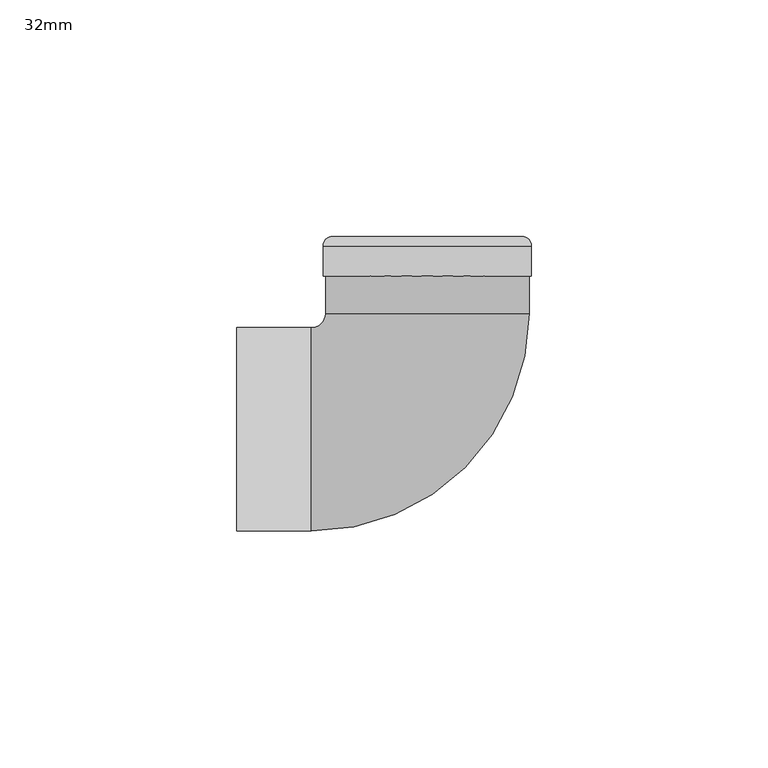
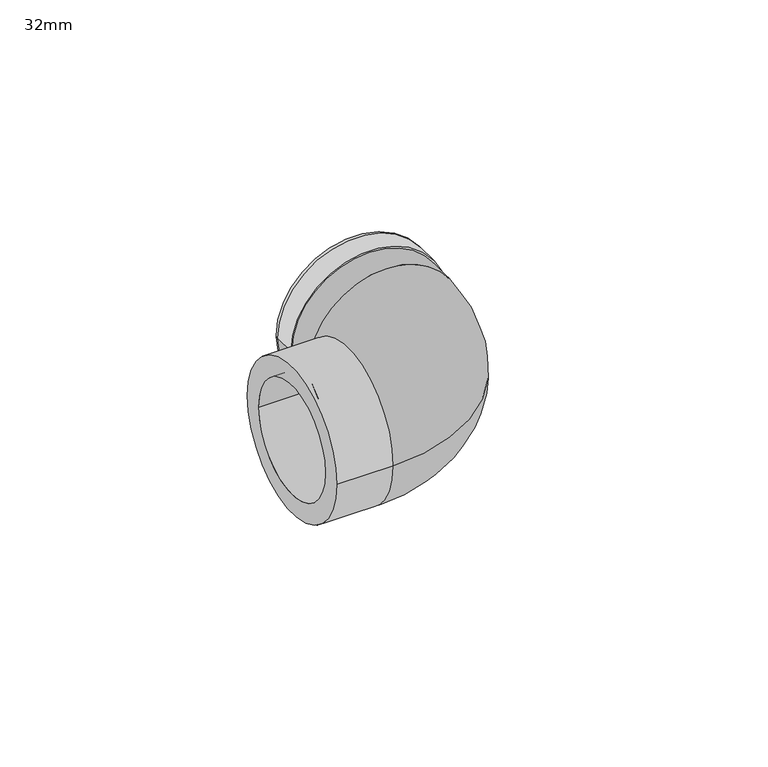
"""IFC4 building model written with IfcOpenShell, lengths in millimetres: pipe fitting geometry, Durapipe_PipeFitting_PVC_PlainThreadedElbows90Deg : 32mm."""

from ifc_helpers import new_model, si_unit, point, frame, origin, place, context, project, spatial, polyline, circle_curve, ellipse_curve, trimmed, source, transform, mapped, element, save
from ifc_brep_helpers import plane_surface, cylinder_surface, revolved_surface, advanced_brep


def pipe_fitting_32mm_0fd3095c(model_context):
    return source(origin(), model_context, "Body", "AdvancedBrep", [
        advanced_brep(
        [(-21.5, 32.4, 0.0), (21.5, 32.4, 0.0), (16.0, 32.4, 0.0), (-16.0, 32.4, 0.0), (-40.3, 21.5, 0.0), (-40.3, -21.5, 0.0), (-40.3, 16.0, 0.0), (-40.3, -16.0, 0.0), (-21.5, 24.5, 0.0), (21.5, 24.5, 0.0), (-24.5, 21.5, 0.0), (-24.5, -21.5, 0.0), (-18.1, -16.0, 0.0), (-18.1, 16.0, 0.0), (-16.0, 18.1, 0.0), (16.0, 18.1, 0.0)],
        [
            (0, 1, circle_curve(frame((0.0, 32.4, 0.0), z_axis=(0.0, 1.0, 0.0), x_axis=(1.0, 0.0, 0.0)), 21.5)),
            (1, 0, circle_curve(frame((0.0, 32.4, 0.0), z_axis=(0.0, 1.0, 0.0), x_axis=(1.0, 0.0, 0.0)), 21.5)),
            (2, 3, circle_curve(frame((0.0, 32.4, 0.0), z_axis=(0.0, -1.0, 0.0), x_axis=(1.0, 0.0, 0.0)), 16.0)),
            (3, 2, circle_curve(frame((0.0, 32.4, 0.0), z_axis=(0.0, -1.0, 0.0), x_axis=(1.0, 0.0, 0.0)), 16.0)),
            (4, 5, circle_curve(frame((-40.3, 0.0, 0.0), z_axis=(-1.0, 0.0, 0.0), x_axis=(0.0, -1.0, 0.0)), 21.5)),
            (5, 4, circle_curve(frame((-40.3, 0.0, 0.0), z_axis=(-1.0, 0.0, 0.0), x_axis=(0.0, -1.0, 0.0)), 21.5)),
            (6, 7, circle_curve(frame((-40.3, 0.0, 0.0), z_axis=(1.0, 0.0, 0.0), x_axis=(0.0, 1.0, 0.0)), 16.0)),
            (7, 6, circle_curve(frame((-40.3, 0.0, 0.0), z_axis=(1.0, 0.0, 0.0), x_axis=(0.0, 1.0, 0.0)), 16.0)),
            (0, 8),
            (8, 9, circle_curve(frame((0.0, 24.5, 0.0), z_axis=(0.0, 1.0, 0.0), x_axis=(1.0, 0.0, 0.0)), 21.5)),
            (9, 1),
            (9, 8, circle_curve(frame((0.0, 24.5, 0.0), z_axis=(0.0, 1.0, 0.0), x_axis=(1.0, 0.0, 0.0)), 21.5)),
            (8, 10, circle_curve(frame((-24.5, 24.5, 0.0), z_axis=(0.0, 0.0, -1.0), x_axis=(1.0, 0.0, 0.0)), 3.0)),
            (10, 11, circle_curve(frame((-24.5, 0.0, 0.0), z_axis=(1.0, 0.0, 0.0), x_axis=(0.0, -1.0, 0.0)), 21.5)),
            (11, 9, circle_curve(frame((-24.5, 24.5, 0.0), z_axis=(0.0, 0.0, 1.0), x_axis=(1.0, 0.0, 0.0)), 46.0)),
            (11, 10, circle_curve(frame((-24.5, 0.0, 0.0), z_axis=(1.0, 0.0, 0.0), x_axis=(0.0, -1.0, 0.0)), 21.5)),
            (5, 11),
            (10, 4),
            (12, 13, circle_curve(frame((-18.1, 0.0, 0.0), z_axis=(-1.0, 0.0, 0.0), x_axis=(0.0, 1.0, 0.0)), 16.0)),
            (13, 12, circle_curve(frame((-18.1, 0.0, 0.0), z_axis=(-1.0, 0.0, 0.0), x_axis=(0.0, 1.0, 0.0)), 16.0)),
            (12, 7),
            (6, 13),
            (14, 15, circle_curve(frame((0.0, 18.1, 0.0), z_axis=(0.0, 1.0, 0.0), x_axis=(1.0, 0.0, 0.0)), 16.0)),
            (15, 14, circle_curve(frame((0.0, 18.1, 0.0), z_axis=(0.0, 1.0, 0.0), x_axis=(1.0, 0.0, 0.0)), 16.0)),
            (14, 3),
            (2, 15),
        ],
        [
            plane_surface(frame((0.0, 32.4, 0.0), z_axis=(0.0, 1.0, 0.0), x_axis=(0.0, 0.0, 1.0))),
            plane_surface(frame((-40.3, 0.0, 0.0), z_axis=(-1.0, 0.0, 0.0), x_axis=(0.0, 0.0, 1.0))),
            cylinder_surface(frame((0.0, 32.4, 0.0), z_axis=(0.0, 1.0, 0.0), x_axis=(1.0, 0.0, 0.0)), 21.5),
            revolved_surface(trimmed(ellipse_curve(frame((0.0, 24.5, 0.0), z_axis=(0.0, 1.0, 0.0), x_axis=(1.0, 0.0, 0.0)), 21.5, 21.5), [point((-21.5, 24.5, 0.0))], [point((21.5, 24.5, 0.0))], True, "CARTESIAN"), (-24.5, 24.5, 0.0), (0.0, 0.0, -1.0)),
            revolved_surface(trimmed(ellipse_curve(frame((0.0, 24.5, 0.0), z_axis=(0.0, 1.0, 0.0), x_axis=(1.0, 0.0, 0.0)), 21.5, 21.5), [point((21.5, 24.5, 0.0))], [point((-21.5, 24.5, 0.0))], True, "CARTESIAN"), (-24.5, 24.5, 0.0), (0.0, 0.0, -1.0)),
            cylinder_surface(frame((-24.5, 0.0, 0.0), z_axis=(1.0, 0.0, 0.0), x_axis=(0.0, -1.0, 0.0)), 21.5),
            plane_surface(frame((-18.1, 0.0, 0.0), z_axis=(-1.0, 0.0, 0.0), x_axis=(0.0, 0.0, 1.0))),
            revolved_surface(polyline([(-40.3, 16.0, 0.0), (-18.1, 16.0, 0.0)]), (-40.3, 0.0, 0.0), (-1.0, 0.0, 0.0)),
            plane_surface(frame((0.0, 18.1, 0.0), z_axis=(0.0, 1.0, 0.0), x_axis=(0.0, 0.0, 1.0))),
            revolved_surface(polyline([(16.0, 32.4, 0.0), (16.0, 18.1, 0.0)]), (0.0, 40.8, 0.0), (0.0, 1.0, 0.0)),
        ],
        [
            (0, [[1, 2], [3, 4]]),
            (1, [[5, 6], [7, 8]]),
            (2, [[-1, 9, 10, 11]]),
            (2, [[-2, -11, 12, -9]]),
            (3, [[-10, 13, 14, 15]]),
            (4, [[-12, -15, 16, -13]]),
            (5, [[-6, 17, -14, 18]]),
            (5, [[-5, -18, -16, -17]]),
            (6, [[19, 20]]),
            (7, [[-19, 21, -7, 22]]),
            (7, [[-20, -22, -8, -21]]),
            (8, [[23, 24]]),
            (9, [[-23, 25, -3, 26]]),
            (9, [[-24, -26, -4, -25]]),
        ],
    ),
        advanced_brep(
        [(19.9754699, 40.8, 0.0), (-19.9754699, 40.8, 0.0), (-16.0, 40.8, 0.0), (16.0, 40.8, 0.0), (22.0, 38.7754699, 0.0), (-22.0, 38.7754699, 0.0), (22.0, 32.4, 0.0), (-22.0, 32.4, 0.0), (16.0, 32.4, 0.0), (-16.0, 32.4, 0.0)],
        [
            (0, 1, circle_curve(frame((0.0, 40.8, 0.0), z_axis=(0.0, 1.0, 0.0), x_axis=(-1.0, 0.0, 0.0)), 19.9754699)),
            (1, 2),
            (2, 3, circle_curve(frame((0.0, 40.8, 0.0), z_axis=(0.0, -1.0, 0.0), x_axis=(-1.0, 0.0, 0.0)), 16.0)),
            (3, 0),
            (1, 0, circle_curve(frame((0.0, 40.8, 0.0), z_axis=(0.0, 1.0, 0.0), x_axis=(-1.0, 0.0, 0.0)), 19.9754699)),
            (3, 2, circle_curve(frame((0.0, 40.8, 0.0), z_axis=(0.0, -1.0, 0.0), x_axis=(-1.0, 0.0, 0.0)), 16.0)),
            (4, 5, circle_curve(frame((0.0, 38.7754699, 0.0), z_axis=(0.0, 1.0, 0.0), x_axis=(-1.0, 0.0, 0.0)), 22.0)),
            (5, 1, circle_curve(frame((-19.9754699, 38.7754699, 0.0), z_axis=(0.0, 0.0, -1.0), x_axis=(1.0, 0.0, 0.0)), 2.0245301)),
            (0, 4, circle_curve(frame((19.9754699, 38.7754699, 0.0), z_axis=(0.0, 0.0, -1.0), x_axis=(-1.0, 0.0, 0.0)), 2.0245301)),
            (5, 4, circle_curve(frame((0.0, 38.7754699, 0.0), z_axis=(0.0, 1.0, 0.0), x_axis=(-1.0, 0.0, 0.0)), 22.0)),
            (6, 7, circle_curve(frame((0.0, 32.4, 0.0), z_axis=(0.0, 1.0, 0.0), x_axis=(-1.0, 0.0, 0.0)), 22.0)),
            (7, 5),
            (4, 6),
            (7, 6, circle_curve(frame((0.0, 32.4, 0.0), z_axis=(0.0, 1.0, 0.0), x_axis=(-1.0, 0.0, 0.0)), 22.0)),
            (8, 9, circle_curve(frame((0.0, 32.4, 0.0), z_axis=(0.0, 1.0, 0.0), x_axis=(-1.0, 0.0, 0.0)), 16.0)),
            (9, 7),
            (6, 8),
            (9, 8, circle_curve(frame((0.0, 32.4, 0.0), z_axis=(0.0, 1.0, 0.0), x_axis=(-1.0, 0.0, 0.0)), 16.0)),
            (2, 9),
            (8, 3),
        ],
        [
            plane_surface(frame((0.0, 40.8, 0.0), z_axis=(0.0, 1.0, 0.0), x_axis=(-1.0, 0.0, 0.0))),
            revolved_surface(trimmed(ellipse_curve(frame((-19.9754699, 38.7754699, 0.0), z_axis=(0.0, 0.0, 1.0), x_axis=(1.0, 0.0, 0.0)), 2.0245301, 2.0245301), [point((-19.9754699, 40.8, 0.0))], [point((-22.0, 38.7754699, 0.0))], True, "CARTESIAN"), (0.0, 53.5371208, 0.0), (0.0, -1.0, 0.0)),
            cylinder_surface(frame((0.0, 53.5371208, 0.0), z_axis=(0.0, -1.0, 0.0), x_axis=(-1.0, 0.0, 0.0)), 22.0),
            plane_surface(frame((0.0, 32.4, 0.0), z_axis=(0.0, -1.0, 0.0), x_axis=(-1.0, 0.0, 0.0))),
            revolved_surface(polyline([(-16.0, 32.4, 0.0), (-16.0, 40.8, 0.0)]), (0.0, 53.5371208, 0.0), (0.0, -1.0, 0.0)),
        ],
        [
            (0, [[1, 2, 3, 4]]),
            (0, [[5, -4, 6, -2]]),
            (1, [[7, 8, -1, 9]]),
            (1, [[10, -9, -5, -8]]),
            (2, [[11, 12, -7, 13]]),
            (2, [[14, -13, -10, -12]]),
            (3, [[15, 16, -11, 17]]),
            (3, [[18, -17, -14, -16]]),
            (4, [[-3, 19, -15, 20]]),
            (4, [[-6, -20, -18, -19]]),
        ],
    ),
    ])


if __name__ == "__main__":
    model = new_model("IFC4")
    model_context = context("Model", 3, world=origin())
    ifc_project = project(units=[si_unit("LENGTHUNIT", "METRE", prefix="MILLI")], contexts=[model_context])
    site = spatial("IfcSite", under=ifc_project)
    building = spatial("IfcBuilding", under=site)
    placement = place(None, origin())
    pipe_fitting_32mm_shape = pipe_fitting_32mm_0fd3095c(model_context)
    element("IfcPipeFitting", 1, ObjectType="Durapipe_PipeFitting_PVC_PlainThreadedElbows90Deg : 32mm", at=placement, inside=building, context=model_context, shape_type="MappedRepresentation", body=[
        mapped(pipe_fitting_32mm_shape, transform((0.0, 0.0, 0.0), x_axis=(1.0, 0.0, 0.0), y_axis=(0.0, 1.0, 0.0), z_axis=(0.0, 0.0, 1.0))),
    ])
    save(model, "model.ifc")
